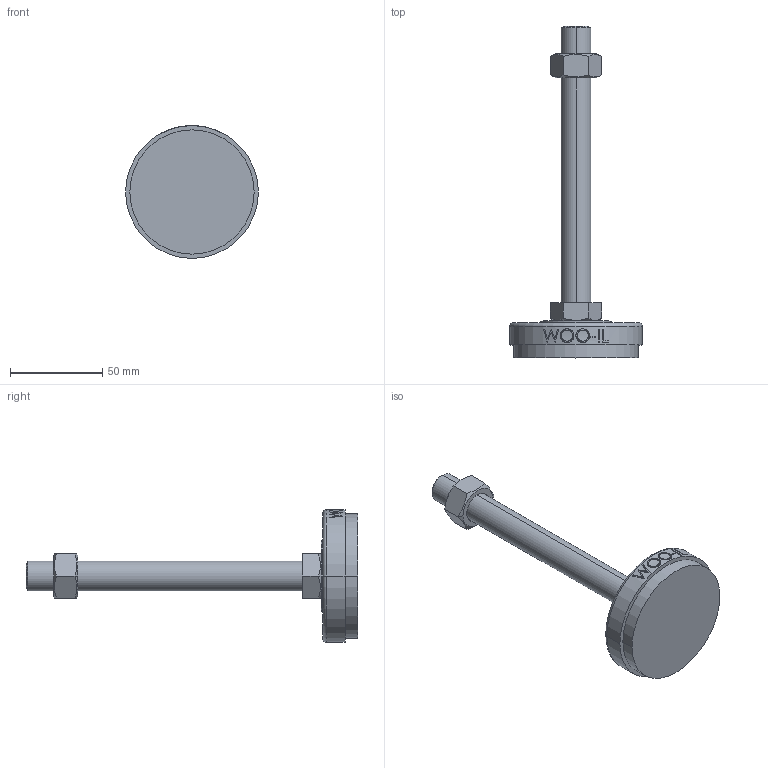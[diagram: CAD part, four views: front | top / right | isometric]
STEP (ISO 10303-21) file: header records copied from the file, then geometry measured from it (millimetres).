
FILE_DESCRIPTION (( 'STEP AP214' ), '1' );
FILE_NAME ('NS72-M16-150.step', '2021-01-11T05:47:30', ( '' ), ( '' ), 'SwSTEP 2.0', 'SolidWorks 2019', '' );
FILE_SCHEMA (( 'AUTOMOTIVE_DESIGN' ));
Length unit declared in the file: millimetre
Products named in the file (2): NS72-M16-150
Bounding box: 72 x 180 x 72 mm (x, y, z)
Volume: 113622.5 mm3; surface area: 23796.4 mm2
Topology: 3 solids, 3 shells, 96 faces, 223 edges, 144 vertices
Faces by surface type: plane 48, cylinder 18, bspline 16, cone 12, torus 2
Entity records: 4262 total; most frequent: CARTESIAN_POINT 2137, ORIENTED_EDGE 446, DIRECTION 381, EDGE_CURVE 223, VERTEX_POINT 144, AXIS2_PLACEMENT_3D 142, EDGE_LOOP 109, LINE 97
